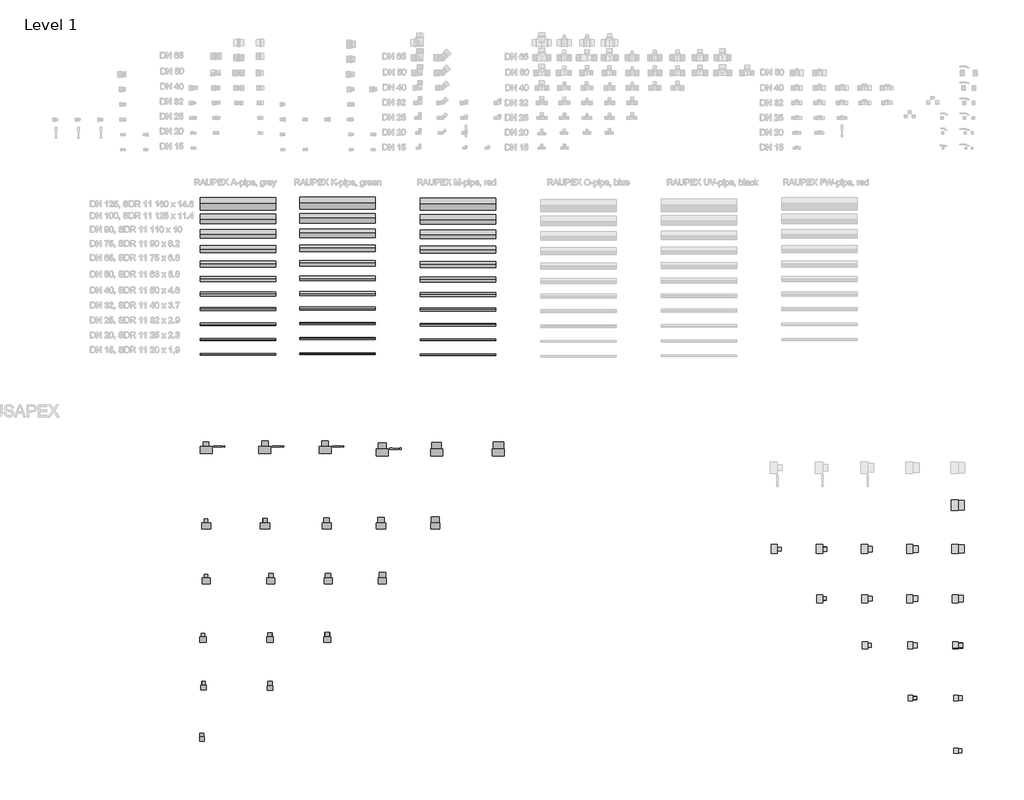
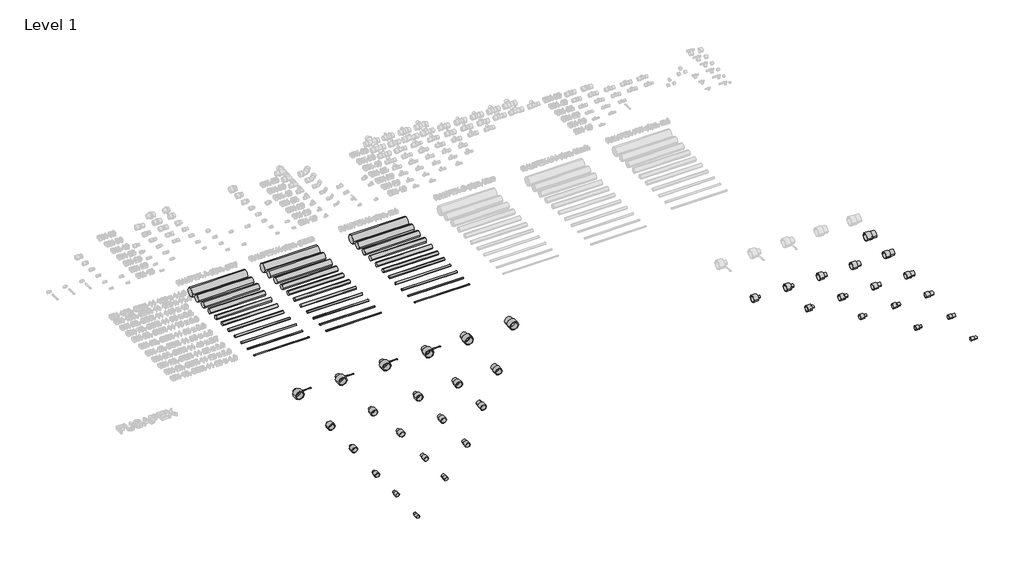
# One storey, part 1 of 16: 37 pipe fittings, 33 pipe segments.
"""IFC4 building model written with IfcOpenShell, lengths in millimetres."""

from ifc_helpers import new_model, si_unit, point, frame, frame_2d, origin, place, context, project, spatial, circle_curve, trimmed, segment, composite_curve, outline, extrude, transform, mapped, element, save
from components import r_c27c096f, r_1e384c2f, r_0a45e2a9, r_e99f7dad, r_4a3a0498, r_8749512e, r_0da97ad1, r_a358cfd3, r_d1f8ca76, r_4d965f74, r_3b0af651, r_697b0825, r_9be9cc2b, r_961efe01, r_f4d68c18, r_cca8e6ca, r_69f262a2, r_bfb9c921, r_07258758, r_6692c43e, r_4e7d908a

model = new_model("IFC4")

# Units and contexts
model_context = context("Model", 3, world=origin())
ifc_project = project(units=[si_unit("LENGTHUNIT", "METRE", prefix="MILLI")], contexts=[model_context])

# Site, building, storey
site = spatial("IfcSite", under=ifc_project)
building = spatial("IfcBuilding", under=site)
storey = spatial("IfcBuildingStorey", under=building, Name="Level 1", Elevation=0.0)

# Pipe fittings
placement = place(None, origin())
r_shape = r_c27c096f(model_context)
element("IfcPipeFitting", 1, ObjectType="FUSAPEX reducer : R", at=placement, inside=storey, context=model_context, shape_type="MappedRepresentation", body=[
    mapped(r_shape, transform((21653.3151183, -4305.7319843, 0.0), x_axis=(1.0, 0.0, 0.0), y_axis=(0.0, 1.0, 0.0), z_axis=(0.0, 0.0, 1.0))),
])
r_2_shape = r_1e384c2f(model_context)
element("IfcPipeFitting", 2, ObjectType="FUSAPEX reducer : R", at=placement, inside=storey, context=model_context, shape_type="MappedRepresentation", body=[
    mapped(r_2_shape, transform((15549.7426751, -3555.5335581, 0.0), x_axis=(0.0, 1.0, 0.0), y_axis=(-1.0, 0.0, 0.0), z_axis=(0.0, 0.0, 1.0))),
])
r_3_shape = r_0a45e2a9(model_context)
element("IfcPipeFitting", 3, ObjectType="FUSAPEX reducer : R", at=placement, inside=storey, context=model_context, shape_type="MappedRepresentation", body=[
    mapped(r_3_shape, transform((21653.3151183, -7565.7319843, 0.0), x_axis=(1.0, 0.0, 0.0), y_axis=(0.0, 1.0, 0.0), z_axis=(0.0, 0.0, 1.0))),
])
element("IfcPipeFitting", 4, ObjectType="FUSAPEX reducer : R", at=placement, inside=storey, context=model_context, shape_type="MappedRepresentation", body=[
    mapped(r_3_shape, transform((11613.2068187, -7379.7319843, 0.0), x_axis=(0.0, 1.0, 0.0), y_axis=(-1.0, 0.0, 0.0), z_axis=(0.0, 0.0, 1.0))),
])
r_4_shape = r_e99f7dad(model_context)
element("IfcPipeFitting", 5, ObjectType="FUSAPEX reducer : R", at=placement, inside=storey, context=model_context, shape_type="MappedRepresentation", body=[
    mapped(r_4_shape, transform((14729.7426751, -3555.5335581, 0.0), x_axis=(0.0, 1.0, 0.0), y_axis=(-1.0, 0.0, 0.0), z_axis=(0.0, 0.0, 1.0))),
])
r_5_shape = r_4a3a0498(model_context)
element("IfcPipeFitting", 6, ObjectType="FUSAPEX reducer : R", at=placement, inside=storey, context=model_context, shape_type="MappedRepresentation", body=[
    mapped(r_5_shape, transform((14009.7426751, -3555.5335581, 0.0), x_axis=(0.0, 1.0, 0.0), y_axis=(-1.0, 0.0, 0.0), z_axis=(0.0, 0.0, 1.0))),
])
r_6_shape = r_8749512e(model_context)
element("IfcPipeFitting", 7, ObjectType="FUSAPEX reducer : R", at=placement, inside=storey, context=model_context, shape_type="MappedRepresentation", body=[
    mapped(r_6_shape, transform((12450.5649543, -3524.1319843, 0.0), x_axis=(0.0, 1.0, 0.0), y_axis=(-1.0, 0.0, 0.0), z_axis=(0.0, 0.0, 1.0))),
])
element("IfcPipeFitting", 8, ObjectType="FUSAPEX reducer : R", at=placement, inside=storey, context=model_context, shape_type="MappedRepresentation", body=[
    mapped(r_6_shape, transform((13250.5649543, -3524.1319843, 0.0), x_axis=(0.0, 1.0, 0.0), y_axis=(-1.0, 0.0, 0.0), z_axis=(0.0, 0.0, 1.0))),
])
r_7_shape = r_0da97ad1(model_context)
element("IfcPipeFitting", 9, ObjectType="FUSAPEX reducer : R", at=placement, inside=storey, context=model_context, shape_type="MappedRepresentation", body=[
    mapped(r_7_shape, transform((11670.5649543, -3524.1319843, 0.0), x_axis=(0.0, 1.0, 0.0), y_axis=(-1.0, 0.0, 0.0), z_axis=(0.0, 0.0, 1.0))),
])
r_8_shape = r_a358cfd3(model_context)
element("IfcPipeFitting", 10, ObjectType="FUSAPEX reducer : R", at=placement, inside=storey, context=model_context, shape_type="MappedRepresentation", body=[
    mapped(r_8_shape, transform((21653.3151183, -4885.7319843, 0.0), x_axis=(1.0, 0.0, 0.0), y_axis=(0.0, 1.0, 0.0), z_axis=(0.0, 0.0, 1.0))),
])
element("IfcPipeFitting", 11, ObjectType="FUSAPEX reducer : R", at=placement, inside=storey, context=model_context, shape_type="MappedRepresentation", body=[
    mapped(r_8_shape, transform((14710.5649543, -4536.1319843, 0.0), x_axis=(0.0, 1.0, 0.0), y_axis=(-1.0, 0.0, 0.0), z_axis=(0.0, 0.0, 1.0))),
])
r_9_shape = r_d1f8ca76(model_context)
element("IfcPipeFitting", 12, ObjectType="FUSAPEX reducer : R", at=placement, inside=storey, context=model_context, shape_type="MappedRepresentation", body=[
    mapped(r_9_shape, transform((21653.3151183, -5545.7319843, 0.0), x_axis=(1.0, 0.0, 0.0), y_axis=(0.0, 1.0, 0.0), z_axis=(0.0, 0.0, 1.0))),
])
element("IfcPipeFitting", 13, ObjectType="FUSAPEX reducer : R", at=placement, inside=storey, context=model_context, shape_type="MappedRepresentation", body=[
    mapped(r_9_shape, transform((14010.5649543, -5269.7319843, 0.0), x_axis=(0.0, 1.0, 0.0), y_axis=(-1.0, 0.0, 0.0), z_axis=(0.0, 0.0, 1.0))),
])
r_10_shape = r_4d965f74(model_context)
element("IfcPipeFitting", 14, ObjectType="FUSAPEX reducer : R", at=placement, inside=storey, context=model_context, shape_type="MappedRepresentation", body=[
    mapped(r_10_shape, transform((21653.3151183, -6165.7319843, 0.0), x_axis=(1.0, 0.0, 0.0), y_axis=(0.0, 1.0, 0.0), z_axis=(0.0, 0.0, 1.0))),
])
element("IfcPipeFitting", 15, ObjectType="FUSAPEX reducer : R", at=placement, inside=storey, context=model_context, shape_type="MappedRepresentation", body=[
    mapped(r_10_shape, transform((13278.3151183, -6054.7319843, 0.0), x_axis=(0.0, 1.0, 0.0), y_axis=(-1.0, 0.0, 0.0), z_axis=(0.0, 0.0, 1.0))),
])
r_11_shape = r_3b0af651(model_context)
element("IfcPipeFitting", 16, ObjectType="FUSAPEX reducer : R", at=placement, inside=storey, context=model_context, shape_type="MappedRepresentation", body=[
    mapped(r_11_shape, transform((21653.3151183, -6865.7319843, 0.0), x_axis=(1.0, 0.0, 0.0), y_axis=(0.0, 1.0, 0.0), z_axis=(0.0, 0.0, 1.0))),
])
element("IfcPipeFitting", 17, ObjectType="FUSAPEX reducer : R", at=placement, inside=storey, context=model_context, shape_type="MappedRepresentation", body=[
    mapped(r_11_shape, transform((12520.8913534, -6701.8870027, 0.0), x_axis=(0.0, 1.0, 0.0), y_axis=(-1.0, 0.0, 0.0), z_axis=(0.0, 0.0, 1.0))),
])
r_12_shape = r_697b0825(model_context)
element("IfcPipeFitting", 18, ObjectType="FUSAPEX reducer : R", at=placement, inside=storey, context=model_context, shape_type="MappedRepresentation", body=[
    mapped(r_12_shape, transform((21053.3151183, -4885.7319843, 0.0), x_axis=(1.0, 0.0, 0.0), y_axis=(0.0, 1.0, 0.0), z_axis=(0.0, 0.0, 1.0))),
])
element("IfcPipeFitting", 19, ObjectType="FUSAPEX reducer : R", at=placement, inside=storey, context=model_context, shape_type="MappedRepresentation", body=[
    mapped(r_12_shape, transform((13990.5649543, -4536.1319843, 0.0), x_axis=(0.0, 1.0, 0.0), y_axis=(-1.0, 0.0, 0.0), z_axis=(0.0, 0.0, 1.0))),
])
r_13_shape = r_9be9cc2b(model_context)
element("IfcPipeFitting", 20, ObjectType="FUSAPEX reducer : R", at=placement, inside=storey, context=model_context, shape_type="MappedRepresentation", body=[
    mapped(r_13_shape, transform((20453.3151183, -4885.7319843, 0.0), x_axis=(1.0, 0.0, 0.0), y_axis=(0.0, 1.0, 0.0), z_axis=(0.0, 0.0, 1.0))),
])
element("IfcPipeFitting", 21, ObjectType="FUSAPEX reducer : R", at=placement, inside=storey, context=model_context, shape_type="MappedRepresentation", body=[
    mapped(r_13_shape, transform((13270.5649543, -4536.1319843, 0.0), x_axis=(0.0, 1.0, 0.0), y_axis=(-1.0, 0.0, 0.0), z_axis=(0.0, 0.0, 1.0))),
])
r_14_shape = r_961efe01(model_context)
element("IfcPipeFitting", 22, ObjectType="FUSAPEX reducer : R", at=placement, inside=storey, context=model_context, shape_type="MappedRepresentation", body=[
    mapped(r_14_shape, transform((19853.3151183, -4885.7319843, 0.0), x_axis=(1.0, 0.0, 0.0), y_axis=(0.0, 1.0, 0.0), z_axis=(0.0, 0.0, 1.0))),
])
element("IfcPipeFitting", 23, ObjectType="FUSAPEX reducer : R", at=placement, inside=storey, context=model_context, shape_type="MappedRepresentation", body=[
    mapped(r_14_shape, transform((12450.5649543, -4536.1319843, 0.0), x_axis=(0.0, 1.0, 0.0), y_axis=(-1.0, 0.0, 0.0), z_axis=(0.0, 0.0, 1.0))),
])
r_15_shape = r_f4d68c18(model_context)
element("IfcPipeFitting", 24, ObjectType="FUSAPEX reducer : R", at=placement, inside=storey, context=model_context, shape_type="MappedRepresentation", body=[
    mapped(r_15_shape, transform((19253.3151183, -4885.7319843, 0.0), x_axis=(1.0, 0.0, 0.0), y_axis=(0.0, 1.0, 0.0), z_axis=(0.0, 0.0, 1.0))),
])
element("IfcPipeFitting", 25, ObjectType="FUSAPEX reducer : R", at=placement, inside=storey, context=model_context, shape_type="MappedRepresentation", body=[
    mapped(r_15_shape, transform((11670.5649543, -4536.1319843, 0.0), x_axis=(0.0, 1.0, 0.0), y_axis=(-1.0, 0.0, 0.0), z_axis=(0.0, 0.0, 1.0))),
])
r_16_shape = r_cca8e6ca(model_context)
element("IfcPipeFitting", 26, ObjectType="FUSAPEX reducer : R", at=placement, inside=storey, context=model_context, shape_type="MappedRepresentation", body=[
    mapped(r_16_shape, transform((21053.3151183, -5545.7319843, 0.0), x_axis=(1.0, 0.0, 0.0), y_axis=(0.0, 1.0, 0.0), z_axis=(0.0, 0.0, 1.0))),
])
element("IfcPipeFitting", 27, ObjectType="FUSAPEX reducer : R", at=placement, inside=storey, context=model_context, shape_type="MappedRepresentation", body=[
    mapped(r_16_shape, transform((13290.5649543, -5269.7319843, 0.0), x_axis=(0.0, 1.0, 0.0), y_axis=(-1.0, 0.0, 0.0), z_axis=(0.0, 0.0, 1.0))),
])
r_17_shape = r_69f262a2(model_context)
element("IfcPipeFitting", 28, ObjectType="FUSAPEX reducer : R", at=placement, inside=storey, context=model_context, shape_type="MappedRepresentation", body=[
    mapped(r_17_shape, transform((20453.3151183, -5545.7319843, 0.0), x_axis=(1.0, 0.0, 0.0), y_axis=(0.0, 1.0, 0.0), z_axis=(0.0, 0.0, 1.0))),
])
element("IfcPipeFitting", 29, ObjectType="FUSAPEX reducer : R", at=placement, inside=storey, context=model_context, shape_type="MappedRepresentation", body=[
    mapped(r_17_shape, transform((12530.5649543, -5269.7319843, 0.0), x_axis=(0.0, 1.0, 0.0), y_axis=(-1.0, 0.0, 0.0), z_axis=(0.0, 0.0, 1.0))),
])
r_18_shape = r_bfb9c921(model_context)
element("IfcPipeFitting", 30, ObjectType="FUSAPEX reducer : R", at=placement, inside=storey, context=model_context, shape_type="MappedRepresentation", body=[
    mapped(r_18_shape, transform((19853.3151183, -5545.7319843, 0.0), x_axis=(1.0, 0.0, 0.0), y_axis=(0.0, 1.0, 0.0), z_axis=(0.0, 0.0, 1.0))),
])
element("IfcPipeFitting", 31, ObjectType="FUSAPEX reducer : R", at=placement, inside=storey, context=model_context, shape_type="MappedRepresentation", body=[
    mapped(r_18_shape, transform((11670.5649543, -5269.7319843, 0.0), x_axis=(0.0, 1.0, 0.0), y_axis=(-1.0, 0.0, 0.0), z_axis=(0.0, 0.0, 1.0))),
])
r_19_shape = r_07258758(model_context)
element("IfcPipeFitting", 32, ObjectType="FUSAPEX reducer : R", at=placement, inside=storey, context=model_context, shape_type="MappedRepresentation", body=[
    mapped(r_19_shape, transform((21053.3151183, -6165.7319843, 0.0), x_axis=(1.0, 0.0, 0.0), y_axis=(0.0, 1.0, 0.0), z_axis=(0.0, 0.0, 1.0))),
])
element("IfcPipeFitting", 33, ObjectType="FUSAPEX reducer : R", at=placement, inside=storey, context=model_context, shape_type="MappedRepresentation", body=[
    mapped(r_19_shape, transform((12520.2194418, -6054.7319843, 0.0), x_axis=(0.0, 1.0, 0.0), y_axis=(-1.0, 0.0, 0.0), z_axis=(0.0, 0.0, 1.0))),
])
r_20_shape = r_6692c43e(model_context)
element("IfcPipeFitting", 34, ObjectType="FUSAPEX reducer : R", at=placement, inside=storey, context=model_context, shape_type="MappedRepresentation", body=[
    mapped(r_20_shape, transform((20453.3151183, -6165.7319843, 0.0), x_axis=(1.0, 0.0, 0.0), y_axis=(0.0, 1.0, 0.0), z_axis=(0.0, 0.0, 1.0))),
])
element("IfcPipeFitting", 35, ObjectType="FUSAPEX reducer : R", at=placement, inside=storey, context=model_context, shape_type="MappedRepresentation", body=[
    mapped(r_20_shape, transform((11630.5649543, -6054.7319843, 0.0), x_axis=(0.0, 1.0, 0.0), y_axis=(-1.0, 0.0, 0.0), z_axis=(0.0, 0.0, 1.0))),
])
r_21_shape = r_4e7d908a(model_context)
element("IfcPipeFitting", 36, ObjectType="FUSAPEX reducer : R", at=placement, inside=storey, context=model_context, shape_type="MappedRepresentation", body=[
    mapped(r_21_shape, transform((21053.3151183, -6865.7319843, 0.0), x_axis=(1.0, 0.0, 0.0), y_axis=(0.0, 1.0, 0.0), z_axis=(0.0, 0.0, 1.0))),
])
element("IfcPipeFitting", 37, ObjectType="FUSAPEX reducer : R", at=placement, inside=storey, context=model_context, shape_type="MappedRepresentation", body=[
    mapped(r_21_shape, transform((11634.5063472, -6694.2472313, 0.0), x_axis=(0.0, 1.0, 0.0), y_axis=(-1.0, 0.0, 0.0), z_axis=(0.0, 0.0, 1.0))),
])

# Pipe segments
element("IfcPipeSegment", 38, ObjectType="RAUPEX-A Rohr, SDR11, grau bar", at=placement, inside=storey, context=model_context, shape_type="SweptSolid", body=[
    extrude(outline(composite_curve([segment(trimmed(circle_curve(frame_2d((-2300.9373535, 0.0)), 10.0), [point((-2310.9373535, 0.0))], [point((-2300.9373535, 10.0))], False, "CARTESIAN"), True, "CONTINUOUS"), segment(trimmed(circle_curve(frame_2d((-2300.9373535, 0.0)), 10.0), [point((-2300.9373535, 10.0))], [point((-2290.9373535, 0.0))], False, "CARTESIAN"), True, "CONTINUOUS"), segment(trimmed(circle_curve(frame_2d((-2300.9373535, 0.0)), 10.0), [point((-2290.9373535, 0.0))], [point((-2300.9373535, -10.0))], False, "CARTESIAN"), True, "CONTINUOUS"), segment(trimmed(circle_curve(frame_2d((-2300.9373535, 0.0)), 10.0), [point((-2300.9373535, -10.0))], [point((-2310.9373535, 0.0))], False, "CARTESIAN"), True, "CONTINUOUS")], self_intersect=False)), frame((11592.3595402, 0.0, 0.0), z_axis=(1.0, 0.0, 0.0), x_axis=(0.0, 1.0, 0.0)), (0.0, 0.0, 1.0), 1000.0),
])
element("IfcPipeSegment", 39, ObjectType="RAUPEX-A Rohr, SDR11, grau bar", at=placement, inside=storey, context=model_context, shape_type="SweptSolid", body=[
    extrude(outline(composite_curve([segment(trimmed(circle_curve(frame_2d((-2100.9373535, 0.0)), 12.5), [point((-2113.4373535, 0.0))], [point((-2100.9373535, 12.5))], False, "CARTESIAN"), True, "CONTINUOUS"), segment(trimmed(circle_curve(frame_2d((-2100.9373535, 0.0)), 12.5), [point((-2100.9373535, 12.5))], [point((-2088.4373535, 0.0))], False, "CARTESIAN"), True, "CONTINUOUS"), segment(trimmed(circle_curve(frame_2d((-2100.9373535, 0.0)), 12.5), [point((-2088.4373535, 0.0))], [point((-2100.9373535, -12.5))], False, "CARTESIAN"), True, "CONTINUOUS"), segment(trimmed(circle_curve(frame_2d((-2100.9373535, 0.0)), 12.5), [point((-2100.9373535, -12.5))], [point((-2113.4373535, 0.0))], False, "CARTESIAN"), True, "CONTINUOUS")], self_intersect=False)), frame((11592.3595402, 0.0, 0.0), z_axis=(1.0, 0.0, 0.0), x_axis=(0.0, 1.0, 0.0)), (0.0, 0.0, 1.0), 1000.0),
])
element("IfcPipeSegment", 40, ObjectType="RAUPEX-A Rohr, SDR11, grau bar", at=placement, inside=storey, context=model_context, shape_type="SweptSolid", body=[
    extrude(outline(composite_curve([segment(trimmed(circle_curve(frame_2d((-1900.9373535, 0.0)), 16.0), [point((-1916.9373535, 0.0))], [point((-1900.9373535, 16.0))], False, "CARTESIAN"), True, "CONTINUOUS"), segment(trimmed(circle_curve(frame_2d((-1900.9373535, 0.0)), 16.0), [point((-1900.9373535, 16.0))], [point((-1884.9373535, 0.0))], False, "CARTESIAN"), True, "CONTINUOUS"), segment(trimmed(circle_curve(frame_2d((-1900.9373535, 0.0)), 16.0), [point((-1884.9373535, 0.0))], [point((-1900.9373535, -16.0))], False, "CARTESIAN"), True, "CONTINUOUS"), segment(trimmed(circle_curve(frame_2d((-1900.9373535, 0.0)), 16.0), [point((-1900.9373535, -16.0))], [point((-1916.9373535, 0.0))], False, "CARTESIAN"), True, "CONTINUOUS")], self_intersect=False)), frame((11592.3595402, 0.0, 0.0), z_axis=(1.0, 0.0, 0.0), x_axis=(0.0, 1.0, 0.0)), (0.0, 0.0, 1.0), 1000.0),
])
element("IfcPipeSegment", 41, ObjectType="RAUPEX-A Rohr, SDR11, grau bar", at=placement, inside=storey, context=model_context, shape_type="SweptSolid", body=[
    extrude(outline(composite_curve([segment(trimmed(circle_curve(frame_2d((-1700.9373535, 0.0)), 20.0), [point((-1720.9373535, 0.0))], [point((-1700.9373535, 20.0))], False, "CARTESIAN"), True, "CONTINUOUS"), segment(trimmed(circle_curve(frame_2d((-1700.9373535, 0.0)), 20.0), [point((-1700.9373535, 20.0))], [point((-1680.9373535, 0.0))], False, "CARTESIAN"), True, "CONTINUOUS"), segment(trimmed(circle_curve(frame_2d((-1700.9373535, 0.0)), 20.0), [point((-1680.9373535, 0.0))], [point((-1700.9373535, -20.0))], False, "CARTESIAN"), True, "CONTINUOUS"), segment(trimmed(circle_curve(frame_2d((-1700.9373535, 0.0)), 20.0), [point((-1700.9373535, -20.0))], [point((-1720.9373535, 0.0))], False, "CARTESIAN"), True, "CONTINUOUS")], self_intersect=False)), frame((11592.3595402, 0.0, 0.0), z_axis=(1.0, 0.0, 0.0), x_axis=(0.0, 1.0, 0.0)), (0.0, 0.0, 1.0), 1000.0),
])
element("IfcPipeSegment", 42, ObjectType="RAUPEX-A Rohr, SDR11, grau bar", at=placement, inside=storey, context=model_context, shape_type="SweptSolid", body=[
    extrude(outline(composite_curve([segment(trimmed(circle_curve(frame_2d((-1500.9373535, 0.0)), 25.0), [point((-1525.9373535, 0.0))], [point((-1500.9373535, 25.0))], False, "CARTESIAN"), True, "CONTINUOUS"), segment(trimmed(circle_curve(frame_2d((-1500.9373535, 0.0)), 25.0), [point((-1500.9373535, 25.0))], [point((-1475.9373535, 0.0))], False, "CARTESIAN"), True, "CONTINUOUS"), segment(trimmed(circle_curve(frame_2d((-1500.9373535, 0.0)), 25.0), [point((-1475.9373535, 0.0))], [point((-1500.9373535, -25.0))], False, "CARTESIAN"), True, "CONTINUOUS"), segment(trimmed(circle_curve(frame_2d((-1500.9373535, 0.0)), 25.0), [point((-1500.9373535, -25.0))], [point((-1525.9373535, 0.0))], False, "CARTESIAN"), True, "CONTINUOUS")], self_intersect=False)), frame((11592.3595402, 0.0, 0.0), z_axis=(1.0, 0.0, 0.0), x_axis=(0.0, 1.0, 0.0)), (0.0, 0.0, 1.0), 1000.0),
])
element("IfcPipeSegment", 43, ObjectType="RAUPEX-A Rohr, SDR11, grau bar", at=placement, inside=storey, context=model_context, shape_type="SweptSolid", body=[
    extrude(outline(composite_curve([segment(trimmed(circle_curve(frame_2d((-1300.9373535, 0.0)), 31.5), [point((-1332.4373535, 0.0))], [point((-1300.9373535, 31.5))], False, "CARTESIAN"), True, "CONTINUOUS"), segment(trimmed(circle_curve(frame_2d((-1300.9373535, 0.0)), 31.5), [point((-1300.9373535, 31.5))], [point((-1269.4373535, 0.0))], False, "CARTESIAN"), True, "CONTINUOUS"), segment(trimmed(circle_curve(frame_2d((-1300.9373535, 0.0)), 31.5), [point((-1269.4373535, 0.0))], [point((-1300.9373535, -31.5))], False, "CARTESIAN"), True, "CONTINUOUS"), segment(trimmed(circle_curve(frame_2d((-1300.9373535, 0.0)), 31.5), [point((-1300.9373535, -31.5))], [point((-1332.4373535, 0.0))], False, "CARTESIAN"), True, "CONTINUOUS")], self_intersect=False)), frame((11592.3595402, 0.0, 0.0), z_axis=(1.0, 0.0, 0.0), x_axis=(0.0, 1.0, 0.0)), (0.0, 0.0, 1.0), 1000.0),
])
element("IfcPipeSegment", 44, ObjectType="RAUPEX-A Rohr, SDR11, grau bar", at=placement, inside=storey, context=model_context, shape_type="SweptSolid", body=[
    extrude(outline(composite_curve([segment(trimmed(circle_curve(frame_2d((-1100.9373535, 0.0)), 37.5), [point((-1138.4373535, 0.0))], [point((-1100.9373535, 37.5))], False, "CARTESIAN"), True, "CONTINUOUS"), segment(trimmed(circle_curve(frame_2d((-1100.9373535, 0.0)), 37.5), [point((-1100.9373535, 37.5))], [point((-1063.4373535, 0.0))], False, "CARTESIAN"), True, "CONTINUOUS"), segment(trimmed(circle_curve(frame_2d((-1100.9373535, 0.0)), 37.5), [point((-1063.4373535, 0.0))], [point((-1100.9373535, -37.5))], False, "CARTESIAN"), True, "CONTINUOUS"), segment(trimmed(circle_curve(frame_2d((-1100.9373535, 0.0)), 37.5), [point((-1100.9373535, -37.5))], [point((-1138.4373535, 0.0))], False, "CARTESIAN"), True, "CONTINUOUS")], self_intersect=False)), frame((11592.3595402, 0.0, 0.0), z_axis=(1.0, 0.0, 0.0), x_axis=(0.0, 1.0, 0.0)), (0.0, 0.0, 1.0), 1000.0),
])
element("IfcPipeSegment", 45, ObjectType="RAUPEX-A Rohr, SDR11, grau bar", at=placement, inside=storey, context=model_context, shape_type="SweptSolid", body=[
    extrude(outline(composite_curve([segment(trimmed(circle_curve(frame_2d((-900.9373535, 0.0)), 45.0), [point((-945.9373535, 0.0))], [point((-900.9373535, 45.0))], False, "CARTESIAN"), True, "CONTINUOUS"), segment(trimmed(circle_curve(frame_2d((-900.9373535, 0.0)), 45.0), [point((-900.9373535, 45.0))], [point((-855.9373535, 0.0))], False, "CARTESIAN"), True, "CONTINUOUS"), segment(trimmed(circle_curve(frame_2d((-900.9373535, 0.0)), 45.0), [point((-855.9373535, 0.0))], [point((-900.9373535, -45.0))], False, "CARTESIAN"), True, "CONTINUOUS"), segment(trimmed(circle_curve(frame_2d((-900.9373535, 0.0)), 45.0), [point((-900.9373535, -45.0))], [point((-945.9373535, 0.0))], False, "CARTESIAN"), True, "CONTINUOUS")], self_intersect=False)), frame((11592.3595402, 0.0, 0.0), z_axis=(1.0, 0.0, 0.0), x_axis=(0.0, 1.0, 0.0)), (0.0, 0.0, 1.0), 1000.0),
])
element("IfcPipeSegment", 46, ObjectType="RAUPEX-A Rohr, SDR11, grau bar", at=placement, inside=storey, context=model_context, shape_type="SweptSolid", body=[
    extrude(outline(composite_curve([segment(trimmed(circle_curve(frame_2d((-700.9373535, 0.0)), 55.0), [point((-755.9373535, 0.0))], [point((-700.9373535, 55.0))], False, "CARTESIAN"), True, "CONTINUOUS"), segment(trimmed(circle_curve(frame_2d((-700.9373535, 0.0)), 55.0), [point((-700.9373535, 55.0))], [point((-645.9373535, 0.0))], False, "CARTESIAN"), True, "CONTINUOUS"), segment(trimmed(circle_curve(frame_2d((-700.9373535, 0.0)), 55.0), [point((-645.9373535, 0.0))], [point((-700.9373535, -55.0))], False, "CARTESIAN"), True, "CONTINUOUS"), segment(trimmed(circle_curve(frame_2d((-700.9373535, 0.0)), 55.0), [point((-700.9373535, -55.0))], [point((-755.9373535, 0.0))], False, "CARTESIAN"), True, "CONTINUOUS")], self_intersect=False)), frame((11592.3595402, 0.0, 0.0), z_axis=(1.0, 0.0, 0.0), x_axis=(0.0, 1.0, 0.0)), (0.0, 0.0, 1.0), 1000.0),
])
element("IfcPipeSegment", 47, ObjectType="RAUPEX-A Rohr, SDR11, grau bar", at=placement, inside=storey, context=model_context, shape_type="SweptSolid", body=[
    extrude(outline(composite_curve([segment(trimmed(circle_curve(frame_2d((-500.9373535, 0.0)), 62.5), [point((-563.4373535, 0.0))], [point((-500.9373535, 62.5))], False, "CARTESIAN"), True, "CONTINUOUS"), segment(trimmed(circle_curve(frame_2d((-500.9373535, 0.0)), 62.5), [point((-500.9373535, 62.5))], [point((-438.4373535, 0.0))], False, "CARTESIAN"), True, "CONTINUOUS"), segment(trimmed(circle_curve(frame_2d((-500.9373535, 0.0)), 62.5), [point((-438.4373535, 0.0))], [point((-500.9373535, -62.5))], False, "CARTESIAN"), True, "CONTINUOUS"), segment(trimmed(circle_curve(frame_2d((-500.9373535, 0.0)), 62.5), [point((-500.9373535, -62.5))], [point((-563.4373535, 0.0))], False, "CARTESIAN"), True, "CONTINUOUS")], self_intersect=False)), frame((11592.3595402, 0.0, 0.0), z_axis=(1.0, 0.0, 0.0), x_axis=(0.0, 1.0, 0.0)), (0.0, 0.0, 1.0), 1000.0),
])
element("IfcPipeSegment", 48, ObjectType="RAUPEX-A Rohr, SDR11, grau bar", at=placement, inside=storey, context=model_context, shape_type="SweptSolid", body=[
    extrude(outline(composite_curve([segment(trimmed(circle_curve(frame_2d((-300.9373535, 0.0)), 80.0), [point((-380.9373535, 0.0))], [point((-300.9373535, 80.0))], False, "CARTESIAN"), True, "CONTINUOUS"), segment(trimmed(circle_curve(frame_2d((-300.9373535, 0.0)), 80.0), [point((-300.9373535, 80.0))], [point((-220.9373535, 0.0))], False, "CARTESIAN"), True, "CONTINUOUS"), segment(trimmed(circle_curve(frame_2d((-300.9373535, 0.0)), 80.0), [point((-220.9373535, 0.0))], [point((-300.9373535, -80.0))], False, "CARTESIAN"), True, "CONTINUOUS"), segment(trimmed(circle_curve(frame_2d((-300.9373535, 0.0)), 80.0), [point((-300.9373535, -80.0))], [point((-380.9373535, 0.0))], False, "CARTESIAN"), True, "CONTINUOUS")], self_intersect=False)), frame((11592.3595402, 0.0, 0.0), z_axis=(1.0, 0.0, 0.0), x_axis=(0.0, 1.0, 0.0)), (0.0, 0.0, 1.0), 1000.0),
])
element("IfcPipeSegment", 49, ObjectType="RAUPEX-K Rohr, SDR11, grün bar", at=placement, inside=storey, context=model_context, shape_type="SweptSolid", body=[
    extrude(outline(composite_curve([segment(trimmed(circle_curve(frame_2d((-2290.9373535, 0.0)), 10.0), [point((-2300.9373535, 0.0))], [point((-2290.9373535, 10.0))], False, "CARTESIAN"), True, "CONTINUOUS"), segment(trimmed(circle_curve(frame_2d((-2290.9373535, 0.0)), 10.0), [point((-2290.9373535, 10.0))], [point((-2280.9373535, 0.0))], False, "CARTESIAN"), True, "CONTINUOUS"), segment(trimmed(circle_curve(frame_2d((-2290.9373535, 0.0)), 10.0), [point((-2280.9373535, 0.0))], [point((-2290.9373535, -10.0))], False, "CARTESIAN"), True, "CONTINUOUS"), segment(trimmed(circle_curve(frame_2d((-2290.9373535, 0.0)), 10.0), [point((-2290.9373535, -10.0))], [point((-2300.9373535, 0.0))], False, "CARTESIAN"), True, "CONTINUOUS")], self_intersect=False)), frame((12912.3595402, 0.0, 0.0), z_axis=(1.0, 0.0, 0.0), x_axis=(0.0, 1.0, 0.0)), (0.0, 0.0, 1.0), 1000.0),
])
element("IfcPipeSegment", 50, ObjectType="RAUPEX-K Rohr, SDR11, grün bar", at=placement, inside=storey, context=model_context, shape_type="SweptSolid", body=[
    extrude(outline(composite_curve([segment(trimmed(circle_curve(frame_2d((-2090.9373535, 0.0)), 12.5), [point((-2103.4373535, 0.0))], [point((-2090.9373535, 12.5))], False, "CARTESIAN"), True, "CONTINUOUS"), segment(trimmed(circle_curve(frame_2d((-2090.9373535, 0.0)), 12.5), [point((-2090.9373535, 12.5))], [point((-2078.4373535, 0.0))], False, "CARTESIAN"), True, "CONTINUOUS"), segment(trimmed(circle_curve(frame_2d((-2090.9373535, 0.0)), 12.5), [point((-2078.4373535, 0.0))], [point((-2090.9373535, -12.5))], False, "CARTESIAN"), True, "CONTINUOUS"), segment(trimmed(circle_curve(frame_2d((-2090.9373535, 0.0)), 12.5), [point((-2090.9373535, -12.5))], [point((-2103.4373535, 0.0))], False, "CARTESIAN"), True, "CONTINUOUS")], self_intersect=False)), frame((12912.3595402, 0.0, 0.0), z_axis=(1.0, 0.0, 0.0), x_axis=(0.0, 1.0, 0.0)), (0.0, 0.0, 1.0), 1000.0),
])
element("IfcPipeSegment", 51, ObjectType="RAUPEX-K Rohr, SDR11, grün bar", at=placement, inside=storey, context=model_context, shape_type="SweptSolid", body=[
    extrude(outline(composite_curve([segment(trimmed(circle_curve(frame_2d((-1890.9373535, 0.0)), 16.0), [point((-1906.9373535, 0.0))], [point((-1890.9373535, 16.0))], False, "CARTESIAN"), True, "CONTINUOUS"), segment(trimmed(circle_curve(frame_2d((-1890.9373535, 0.0)), 16.0), [point((-1890.9373535, 16.0))], [point((-1874.9373535, 0.0))], False, "CARTESIAN"), True, "CONTINUOUS"), segment(trimmed(circle_curve(frame_2d((-1890.9373535, 0.0)), 16.0), [point((-1874.9373535, 0.0))], [point((-1890.9373535, -16.0))], False, "CARTESIAN"), True, "CONTINUOUS"), segment(trimmed(circle_curve(frame_2d((-1890.9373535, 0.0)), 16.0), [point((-1890.9373535, -16.0))], [point((-1906.9373535, 0.0))], False, "CARTESIAN"), True, "CONTINUOUS")], self_intersect=False)), frame((12912.3595402, 0.0, 0.0), z_axis=(1.0, 0.0, 0.0), x_axis=(0.0, 1.0, 0.0)), (0.0, 0.0, 1.0), 1000.0),
])
element("IfcPipeSegment", 52, ObjectType="RAUPEX-K Rohr, SDR11, grün bar", at=placement, inside=storey, context=model_context, shape_type="SweptSolid", body=[
    extrude(outline(composite_curve([segment(trimmed(circle_curve(frame_2d((-1690.9373535, 0.0)), 20.0), [point((-1710.9373535, 0.0))], [point((-1690.9373535, 20.0))], False, "CARTESIAN"), True, "CONTINUOUS"), segment(trimmed(circle_curve(frame_2d((-1690.9373535, 0.0)), 20.0), [point((-1690.9373535, 20.0))], [point((-1670.9373535, 0.0))], False, "CARTESIAN"), True, "CONTINUOUS"), segment(trimmed(circle_curve(frame_2d((-1690.9373535, 0.0)), 20.0), [point((-1670.9373535, 0.0))], [point((-1690.9373535, -20.0))], False, "CARTESIAN"), True, "CONTINUOUS"), segment(trimmed(circle_curve(frame_2d((-1690.9373535, 0.0)), 20.0), [point((-1690.9373535, -20.0))], [point((-1710.9373535, 0.0))], False, "CARTESIAN"), True, "CONTINUOUS")], self_intersect=False)), frame((12912.3595402, 0.0, 0.0), z_axis=(1.0, 0.0, 0.0), x_axis=(0.0, 1.0, 0.0)), (0.0, 0.0, 1.0), 1000.0),
])
element("IfcPipeSegment", 53, ObjectType="RAUPEX-K Rohr, SDR11, grün bar", at=placement, inside=storey, context=model_context, shape_type="SweptSolid", body=[
    extrude(outline(composite_curve([segment(trimmed(circle_curve(frame_2d((-1490.9373535, 0.0)), 25.0), [point((-1515.9373535, 0.0))], [point((-1490.9373535, 25.0))], False, "CARTESIAN"), True, "CONTINUOUS"), segment(trimmed(circle_curve(frame_2d((-1490.9373535, 0.0)), 25.0), [point((-1490.9373535, 25.0))], [point((-1465.9373535, 0.0))], False, "CARTESIAN"), True, "CONTINUOUS"), segment(trimmed(circle_curve(frame_2d((-1490.9373535, 0.0)), 25.0), [point((-1465.9373535, 0.0))], [point((-1490.9373535, -25.0))], False, "CARTESIAN"), True, "CONTINUOUS"), segment(trimmed(circle_curve(frame_2d((-1490.9373535, 0.0)), 25.0), [point((-1490.9373535, -25.0))], [point((-1515.9373535, 0.0))], False, "CARTESIAN"), True, "CONTINUOUS")], self_intersect=False)), frame((12912.3595402, 0.0, 0.0), z_axis=(1.0, 0.0, 0.0), x_axis=(0.0, 1.0, 0.0)), (0.0, 0.0, 1.0), 1000.0),
])
element("IfcPipeSegment", 54, ObjectType="RAUPEX-K Rohr, SDR11, grün bar", at=placement, inside=storey, context=model_context, shape_type="SweptSolid", body=[
    extrude(outline(composite_curve([segment(trimmed(circle_curve(frame_2d((-1290.9373535, 0.0)), 31.5), [point((-1322.4373535, 0.0))], [point((-1290.9373535, 31.5))], False, "CARTESIAN"), True, "CONTINUOUS"), segment(trimmed(circle_curve(frame_2d((-1290.9373535, 0.0)), 31.5), [point((-1290.9373535, 31.5))], [point((-1259.4373535, 0.0))], False, "CARTESIAN"), True, "CONTINUOUS"), segment(trimmed(circle_curve(frame_2d((-1290.9373535, 0.0)), 31.5), [point((-1259.4373535, 0.0))], [point((-1290.9373535, -31.5))], False, "CARTESIAN"), True, "CONTINUOUS"), segment(trimmed(circle_curve(frame_2d((-1290.9373535, 0.0)), 31.5), [point((-1290.9373535, -31.5))], [point((-1322.4373535, 0.0))], False, "CARTESIAN"), True, "CONTINUOUS")], self_intersect=False)), frame((12912.3595402, 0.0, 0.0), z_axis=(1.0, 0.0, 0.0), x_axis=(0.0, 1.0, 0.0)), (0.0, 0.0, 1.0), 1000.0),
])
element("IfcPipeSegment", 55, ObjectType="RAUPEX-K Rohr, SDR11, grün bar", at=placement, inside=storey, context=model_context, shape_type="SweptSolid", body=[
    extrude(outline(composite_curve([segment(trimmed(circle_curve(frame_2d((-1090.9373535, 0.0)), 37.5), [point((-1128.4373535, 0.0))], [point((-1090.9373535, 37.5))], False, "CARTESIAN"), True, "CONTINUOUS"), segment(trimmed(circle_curve(frame_2d((-1090.9373535, 0.0)), 37.5), [point((-1090.9373535, 37.5))], [point((-1053.4373535, 0.0))], False, "CARTESIAN"), True, "CONTINUOUS"), segment(trimmed(circle_curve(frame_2d((-1090.9373535, 0.0)), 37.5), [point((-1053.4373535, 0.0))], [point((-1090.9373535, -37.5))], False, "CARTESIAN"), True, "CONTINUOUS"), segment(trimmed(circle_curve(frame_2d((-1090.9373535, 0.0)), 37.5), [point((-1090.9373535, -37.5))], [point((-1128.4373535, 0.0))], False, "CARTESIAN"), True, "CONTINUOUS")], self_intersect=False)), frame((12912.3595402, 0.0, 0.0), z_axis=(1.0, 0.0, 0.0), x_axis=(0.0, 1.0, 0.0)), (0.0, 0.0, 1.0), 1000.0),
])
element("IfcPipeSegment", 56, ObjectType="RAUPEX-K Rohr, SDR11, grün bar", at=placement, inside=storey, context=model_context, shape_type="SweptSolid", body=[
    extrude(outline(composite_curve([segment(trimmed(circle_curve(frame_2d((-890.9373535, 0.0)), 45.0), [point((-935.9373535, 0.0))], [point((-890.9373535, 45.0))], False, "CARTESIAN"), True, "CONTINUOUS"), segment(trimmed(circle_curve(frame_2d((-890.9373535, 0.0)), 45.0), [point((-890.9373535, 45.0))], [point((-845.9373535, 0.0))], False, "CARTESIAN"), True, "CONTINUOUS"), segment(trimmed(circle_curve(frame_2d((-890.9373535, 0.0)), 45.0), [point((-845.9373535, 0.0))], [point((-890.9373535, -45.0))], False, "CARTESIAN"), True, "CONTINUOUS"), segment(trimmed(circle_curve(frame_2d((-890.9373535, 0.0)), 45.0), [point((-890.9373535, -45.0))], [point((-935.9373535, 0.0))], False, "CARTESIAN"), True, "CONTINUOUS")], self_intersect=False)), frame((12912.3595402, 0.0, 0.0), z_axis=(1.0, 0.0, 0.0), x_axis=(0.0, 1.0, 0.0)), (0.0, 0.0, 1.0), 1000.0),
])
element("IfcPipeSegment", 57, ObjectType="RAUPEX-K Rohr, SDR11, grün bar", at=placement, inside=storey, context=model_context, shape_type="SweptSolid", body=[
    extrude(outline(composite_curve([segment(trimmed(circle_curve(frame_2d((-690.9373535, 0.0)), 55.0), [point((-745.9373535, 0.0))], [point((-690.9373535, 55.0))], False, "CARTESIAN"), True, "CONTINUOUS"), segment(trimmed(circle_curve(frame_2d((-690.9373535, 0.0)), 55.0), [point((-690.9373535, 55.0))], [point((-635.9373535, 0.0))], False, "CARTESIAN"), True, "CONTINUOUS"), segment(trimmed(circle_curve(frame_2d((-690.9373535, 0.0)), 55.0), [point((-635.9373535, 0.0))], [point((-690.9373535, -55.0))], False, "CARTESIAN"), True, "CONTINUOUS"), segment(trimmed(circle_curve(frame_2d((-690.9373535, 0.0)), 55.0), [point((-690.9373535, -55.0))], [point((-745.9373535, 0.0))], False, "CARTESIAN"), True, "CONTINUOUS")], self_intersect=False)), frame((12912.3595402, 0.0, 0.0), z_axis=(1.0, 0.0, 0.0), x_axis=(0.0, 1.0, 0.0)), (0.0, 0.0, 1.0), 1000.0),
])
element("IfcPipeSegment", 58, ObjectType="RAUPEX-K Rohr, SDR11, grün bar", at=placement, inside=storey, context=model_context, shape_type="SweptSolid", body=[
    extrude(outline(composite_curve([segment(trimmed(circle_curve(frame_2d((-490.9373535, 0.0)), 62.5), [point((-553.4373535, 0.0))], [point((-490.9373535, 62.5))], False, "CARTESIAN"), True, "CONTINUOUS"), segment(trimmed(circle_curve(frame_2d((-490.9373535, 0.0)), 62.5), [point((-490.9373535, 62.5))], [point((-428.4373535, 0.0))], False, "CARTESIAN"), True, "CONTINUOUS"), segment(trimmed(circle_curve(frame_2d((-490.9373535, 0.0)), 62.5), [point((-428.4373535, 0.0))], [point((-490.9373535, -62.5))], False, "CARTESIAN"), True, "CONTINUOUS"), segment(trimmed(circle_curve(frame_2d((-490.9373535, 0.0)), 62.5), [point((-490.9373535, -62.5))], [point((-553.4373535, 0.0))], False, "CARTESIAN"), True, "CONTINUOUS")], self_intersect=False)), frame((12912.3595402, 0.0, 0.0), z_axis=(1.0, 0.0, 0.0), x_axis=(0.0, 1.0, 0.0)), (0.0, 0.0, 1.0), 1000.0),
])
element("IfcPipeSegment", 59, ObjectType="RAUPEX-K Rohr, SDR11, grün bar", at=placement, inside=storey, context=model_context, shape_type="SweptSolid", body=[
    extrude(outline(composite_curve([segment(trimmed(circle_curve(frame_2d((-290.9373535, 0.0)), 80.0), [point((-370.9373535, 0.0))], [point((-290.9373535, 80.0))], False, "CARTESIAN"), True, "CONTINUOUS"), segment(trimmed(circle_curve(frame_2d((-290.9373535, 0.0)), 80.0), [point((-290.9373535, 80.0))], [point((-210.9373535, 0.0))], False, "CARTESIAN"), True, "CONTINUOUS"), segment(trimmed(circle_curve(frame_2d((-290.9373535, 0.0)), 80.0), [point((-210.9373535, 0.0))], [point((-290.9373535, -80.0))], False, "CARTESIAN"), True, "CONTINUOUS"), segment(trimmed(circle_curve(frame_2d((-290.9373535, 0.0)), 80.0), [point((-290.9373535, -80.0))], [point((-370.9373535, 0.0))], False, "CARTESIAN"), True, "CONTINUOUS")], self_intersect=False)), frame((12912.3595402, 0.0, 0.0), z_axis=(1.0, 0.0, 0.0), x_axis=(0.0, 1.0, 0.0)), (0.0, 0.0, 1.0), 1000.0),
])
element("IfcPipeSegment", 60, ObjectType="RAUPEX-M Rohr, SDR11, rot bar", at=placement, inside=storey, context=model_context, shape_type="SweptSolid", body=[
    extrude(outline(composite_curve([segment(trimmed(circle_curve(frame_2d((-2306.9373535, 0.0)), 10.0), [point((-2316.9373535, 0.0))], [point((-2306.9373535, 10.0))], False, "CARTESIAN"), True, "CONTINUOUS"), segment(trimmed(circle_curve(frame_2d((-2306.9373535, 0.0)), 10.0), [point((-2306.9373535, 10.0))], [point((-2296.9373535, 0.0))], False, "CARTESIAN"), True, "CONTINUOUS"), segment(trimmed(circle_curve(frame_2d((-2306.9373535, 0.0)), 10.0), [point((-2296.9373535, 0.0))], [point((-2306.9373535, -10.0))], False, "CARTESIAN"), True, "CONTINUOUS"), segment(trimmed(circle_curve(frame_2d((-2306.9373535, 0.0)), 10.0), [point((-2306.9373535, -10.0))], [point((-2316.9373535, 0.0))], False, "CARTESIAN"), True, "CONTINUOUS")], self_intersect=False)), frame((14512.3595402, 0.0, 0.0), z_axis=(1.0, 0.0, 0.0), x_axis=(0.0, 1.0, 0.0)), (0.0, 0.0, 1.0), 1000.0),
])
element("IfcPipeSegment", 61, ObjectType="RAUPEX-M Rohr, SDR11, rot bar", at=placement, inside=storey, context=model_context, shape_type="SweptSolid", body=[
    extrude(outline(composite_curve([segment(trimmed(circle_curve(frame_2d((-2106.9373535, 0.0)), 12.5), [point((-2119.4373535, 0.0))], [point((-2106.9373535, 12.5))], False, "CARTESIAN"), True, "CONTINUOUS"), segment(trimmed(circle_curve(frame_2d((-2106.9373535, 0.0)), 12.5), [point((-2106.9373535, 12.5))], [point((-2094.4373535, 0.0))], False, "CARTESIAN"), True, "CONTINUOUS"), segment(trimmed(circle_curve(frame_2d((-2106.9373535, 0.0)), 12.5), [point((-2094.4373535, 0.0))], [point((-2106.9373535, -12.5))], False, "CARTESIAN"), True, "CONTINUOUS"), segment(trimmed(circle_curve(frame_2d((-2106.9373535, 0.0)), 12.5), [point((-2106.9373535, -12.5))], [point((-2119.4373535, 0.0))], False, "CARTESIAN"), True, "CONTINUOUS")], self_intersect=False)), frame((14512.3595402, 0.0, 0.0), z_axis=(1.0, 0.0, 0.0), x_axis=(0.0, 1.0, 0.0)), (0.0, 0.0, 1.0), 1000.0),
])
element("IfcPipeSegment", 62, ObjectType="RAUPEX-M Rohr, SDR11, rot bar", at=placement, inside=storey, context=model_context, shape_type="SweptSolid", body=[
    extrude(outline(composite_curve([segment(trimmed(circle_curve(frame_2d((-1906.9373535, 0.0)), 16.0), [point((-1922.9373535, 0.0))], [point((-1906.9373535, 16.0))], False, "CARTESIAN"), True, "CONTINUOUS"), segment(trimmed(circle_curve(frame_2d((-1906.9373535, 0.0)), 16.0), [point((-1906.9373535, 16.0))], [point((-1890.9373535, 0.0))], False, "CARTESIAN"), True, "CONTINUOUS"), segment(trimmed(circle_curve(frame_2d((-1906.9373535, 0.0)), 16.0), [point((-1890.9373535, 0.0))], [point((-1906.9373535, -16.0))], False, "CARTESIAN"), True, "CONTINUOUS"), segment(trimmed(circle_curve(frame_2d((-1906.9373535, 0.0)), 16.0), [point((-1906.9373535, -16.0))], [point((-1922.9373535, 0.0))], False, "CARTESIAN"), True, "CONTINUOUS")], self_intersect=False)), frame((14512.3595402, 0.0, 0.0), z_axis=(1.0, 0.0, 0.0), x_axis=(0.0, 1.0, 0.0)), (0.0, 0.0, 1.0), 1000.0),
])
element("IfcPipeSegment", 63, ObjectType="RAUPEX-M Rohr, SDR11, rot bar", at=placement, inside=storey, context=model_context, shape_type="SweptSolid", body=[
    extrude(outline(composite_curve([segment(trimmed(circle_curve(frame_2d((-1706.9373535, 0.0)), 20.0), [point((-1726.9373535, 0.0))], [point((-1706.9373535, 20.0))], False, "CARTESIAN"), True, "CONTINUOUS"), segment(trimmed(circle_curve(frame_2d((-1706.9373535, 0.0)), 20.0), [point((-1706.9373535, 20.0))], [point((-1686.9373535, 0.0))], False, "CARTESIAN"), True, "CONTINUOUS"), segment(trimmed(circle_curve(frame_2d((-1706.9373535, 0.0)), 20.0), [point((-1686.9373535, 0.0))], [point((-1706.9373535, -20.0))], False, "CARTESIAN"), True, "CONTINUOUS"), segment(trimmed(circle_curve(frame_2d((-1706.9373535, 0.0)), 20.0), [point((-1706.9373535, -20.0))], [point((-1726.9373535, 0.0))], False, "CARTESIAN"), True, "CONTINUOUS")], self_intersect=False)), frame((14512.3595402, 0.0, 0.0), z_axis=(1.0, 0.0, 0.0), x_axis=(0.0, 1.0, 0.0)), (0.0, 0.0, 1.0), 1000.0),
])
element("IfcPipeSegment", 64, ObjectType="RAUPEX-M Rohr, SDR11, rot bar", at=placement, inside=storey, context=model_context, shape_type="SweptSolid", body=[
    extrude(outline(composite_curve([segment(trimmed(circle_curve(frame_2d((-1506.9373535, 0.0)), 25.0), [point((-1531.9373535, 0.0))], [point((-1506.9373535, 25.0))], False, "CARTESIAN"), True, "CONTINUOUS"), segment(trimmed(circle_curve(frame_2d((-1506.9373535, 0.0)), 25.0), [point((-1506.9373535, 25.0))], [point((-1481.9373535, 0.0))], False, "CARTESIAN"), True, "CONTINUOUS"), segment(trimmed(circle_curve(frame_2d((-1506.9373535, 0.0)), 25.0), [point((-1481.9373535, 0.0))], [point((-1506.9373535, -25.0))], False, "CARTESIAN"), True, "CONTINUOUS"), segment(trimmed(circle_curve(frame_2d((-1506.9373535, 0.0)), 25.0), [point((-1506.9373535, -25.0))], [point((-1531.9373535, 0.0))], False, "CARTESIAN"), True, "CONTINUOUS")], self_intersect=False)), frame((14512.3595402, 0.0, 0.0), z_axis=(1.0, 0.0, 0.0), x_axis=(0.0, 1.0, 0.0)), (0.0, 0.0, 1.0), 1000.0),
])
element("IfcPipeSegment", 65, ObjectType="RAUPEX-M Rohr, SDR11, rot bar", at=placement, inside=storey, context=model_context, shape_type="SweptSolid", body=[
    extrude(outline(composite_curve([segment(trimmed(circle_curve(frame_2d((-1306.9373535, 0.0)), 31.5), [point((-1338.4373535, 0.0))], [point((-1306.9373535, 31.5))], False, "CARTESIAN"), True, "CONTINUOUS"), segment(trimmed(circle_curve(frame_2d((-1306.9373535, 0.0)), 31.5), [point((-1306.9373535, 31.5))], [point((-1275.4373535, 0.0))], False, "CARTESIAN"), True, "CONTINUOUS"), segment(trimmed(circle_curve(frame_2d((-1306.9373535, 0.0)), 31.5), [point((-1275.4373535, 0.0))], [point((-1306.9373535, -31.5))], False, "CARTESIAN"), True, "CONTINUOUS"), segment(trimmed(circle_curve(frame_2d((-1306.9373535, 0.0)), 31.5), [point((-1306.9373535, -31.5))], [point((-1338.4373535, 0.0))], False, "CARTESIAN"), True, "CONTINUOUS")], self_intersect=False)), frame((14512.3595402, 0.0, 0.0), z_axis=(1.0, 0.0, 0.0), x_axis=(0.0, 1.0, 0.0)), (0.0, 0.0, 1.0), 1000.0),
])
element("IfcPipeSegment", 66, ObjectType="RAUPEX-M Rohr, SDR11, rot bar", at=placement, inside=storey, context=model_context, shape_type="SweptSolid", body=[
    extrude(outline(composite_curve([segment(trimmed(circle_curve(frame_2d((-1106.9373535, 0.0)), 37.5), [point((-1144.4373535, 0.0))], [point((-1106.9373535, 37.5))], False, "CARTESIAN"), True, "CONTINUOUS"), segment(trimmed(circle_curve(frame_2d((-1106.9373535, 0.0)), 37.5), [point((-1106.9373535, 37.5))], [point((-1069.4373535, 0.0))], False, "CARTESIAN"), True, "CONTINUOUS"), segment(trimmed(circle_curve(frame_2d((-1106.9373535, 0.0)), 37.5), [point((-1069.4373535, 0.0))], [point((-1106.9373535, -37.5))], False, "CARTESIAN"), True, "CONTINUOUS"), segment(trimmed(circle_curve(frame_2d((-1106.9373535, 0.0)), 37.5), [point((-1106.9373535, -37.5))], [point((-1144.4373535, 0.0))], False, "CARTESIAN"), True, "CONTINUOUS")], self_intersect=False)), frame((14512.3595402, 0.0, 0.0), z_axis=(1.0, 0.0, 0.0), x_axis=(0.0, 1.0, 0.0)), (0.0, 0.0, 1.0), 1000.0),
])
element("IfcPipeSegment", 67, ObjectType="RAUPEX-M Rohr, SDR11, rot bar", at=placement, inside=storey, context=model_context, shape_type="SweptSolid", body=[
    extrude(outline(composite_curve([segment(trimmed(circle_curve(frame_2d((-906.9373535, 0.0)), 45.0), [point((-951.9373535, 0.0))], [point((-906.9373535, 45.0))], False, "CARTESIAN"), True, "CONTINUOUS"), segment(trimmed(circle_curve(frame_2d((-906.9373535, 0.0)), 45.0), [point((-906.9373535, 45.0))], [point((-861.9373535, 0.0))], False, "CARTESIAN"), True, "CONTINUOUS"), segment(trimmed(circle_curve(frame_2d((-906.9373535, 0.0)), 45.0), [point((-861.9373535, 0.0))], [point((-906.9373535, -45.0))], False, "CARTESIAN"), True, "CONTINUOUS"), segment(trimmed(circle_curve(frame_2d((-906.9373535, 0.0)), 45.0), [point((-906.9373535, -45.0))], [point((-951.9373535, 0.0))], False, "CARTESIAN"), True, "CONTINUOUS")], self_intersect=False)), frame((14512.3595402, 0.0, 0.0), z_axis=(1.0, 0.0, 0.0), x_axis=(0.0, 1.0, 0.0)), (0.0, 0.0, 1.0), 1000.0),
])
element("IfcPipeSegment", 68, ObjectType="RAUPEX-M Rohr, SDR11, rot bar", at=placement, inside=storey, context=model_context, shape_type="SweptSolid", body=[
    extrude(outline(composite_curve([segment(trimmed(circle_curve(frame_2d((-706.9373535, 0.0)), 55.0), [point((-761.9373535, 0.0))], [point((-706.9373535, 55.0))], False, "CARTESIAN"), True, "CONTINUOUS"), segment(trimmed(circle_curve(frame_2d((-706.9373535, 0.0)), 55.0), [point((-706.9373535, 55.0))], [point((-651.9373535, 0.0))], False, "CARTESIAN"), True, "CONTINUOUS"), segment(trimmed(circle_curve(frame_2d((-706.9373535, 0.0)), 55.0), [point((-651.9373535, 0.0))], [point((-706.9373535, -55.0))], False, "CARTESIAN"), True, "CONTINUOUS"), segment(trimmed(circle_curve(frame_2d((-706.9373535, 0.0)), 55.0), [point((-706.9373535, -55.0))], [point((-761.9373535, 0.0))], False, "CARTESIAN"), True, "CONTINUOUS")], self_intersect=False)), frame((14512.3595402, 0.0, 0.0), z_axis=(1.0, 0.0, 0.0), x_axis=(0.0, 1.0, 0.0)), (0.0, 0.0, 1.0), 1000.0),
])
element("IfcPipeSegment", 69, ObjectType="RAUPEX-M Rohr, SDR11, rot bar", at=placement, inside=storey, context=model_context, shape_type="SweptSolid", body=[
    extrude(outline(composite_curve([segment(trimmed(circle_curve(frame_2d((-506.9373535, 0.0)), 62.5), [point((-569.4373535, 0.0))], [point((-506.9373535, 62.5))], False, "CARTESIAN"), True, "CONTINUOUS"), segment(trimmed(circle_curve(frame_2d((-506.9373535, 0.0)), 62.5), [point((-506.9373535, 62.5))], [point((-444.4373535, 0.0))], False, "CARTESIAN"), True, "CONTINUOUS"), segment(trimmed(circle_curve(frame_2d((-506.9373535, 0.0)), 62.5), [point((-444.4373535, 0.0))], [point((-506.9373535, -62.5))], False, "CARTESIAN"), True, "CONTINUOUS"), segment(trimmed(circle_curve(frame_2d((-506.9373535, 0.0)), 62.5), [point((-506.9373535, -62.5))], [point((-569.4373535, 0.0))], False, "CARTESIAN"), True, "CONTINUOUS")], self_intersect=False)), frame((14512.3595402, 0.0, 0.0), z_axis=(1.0, 0.0, 0.0), x_axis=(0.0, 1.0, 0.0)), (0.0, 0.0, 1.0), 1000.0),
])
element("IfcPipeSegment", 70, ObjectType="RAUPEX-M Rohr, SDR11, rot bar", at=placement, inside=storey, context=model_context, shape_type="SweptSolid", body=[
    extrude(outline(composite_curve([segment(trimmed(circle_curve(frame_2d((-306.9373535, 0.0)), 80.0), [point((-386.9373535, 0.0))], [point((-306.9373535, 80.0))], False, "CARTESIAN"), True, "CONTINUOUS"), segment(trimmed(circle_curve(frame_2d((-306.9373535, 0.0)), 80.0), [point((-306.9373535, 80.0))], [point((-226.9373535, 0.0))], False, "CARTESIAN"), True, "CONTINUOUS"), segment(trimmed(circle_curve(frame_2d((-306.9373535, 0.0)), 80.0), [point((-226.9373535, 0.0))], [point((-306.9373535, -80.0))], False, "CARTESIAN"), True, "CONTINUOUS"), segment(trimmed(circle_curve(frame_2d((-306.9373535, 0.0)), 80.0), [point((-306.9373535, -80.0))], [point((-386.9373535, 0.0))], False, "CARTESIAN"), True, "CONTINUOUS")], self_intersect=False)), frame((14512.3595402, 0.0, 0.0), z_axis=(1.0, 0.0, 0.0), x_axis=(0.0, 1.0, 0.0)), (0.0, 0.0, 1.0), 1000.0),
])

save(model, "model.ifc")
